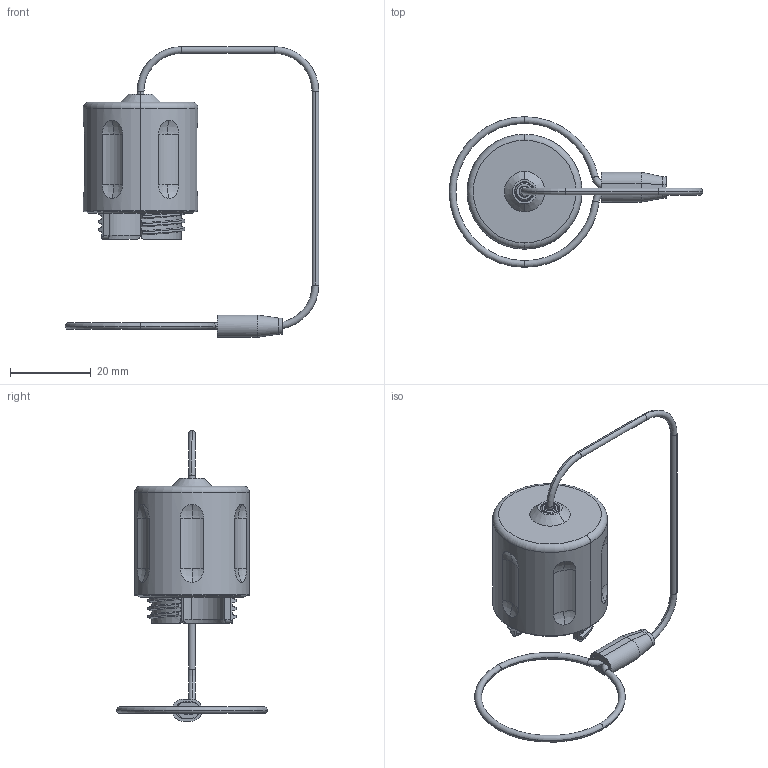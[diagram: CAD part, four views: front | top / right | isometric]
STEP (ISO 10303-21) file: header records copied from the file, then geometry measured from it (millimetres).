
FILE_DESCRIPTION (( 'STEP AP214' ), '1' );
FILE_NAME ('QMINI-DCHPX.STEP', '2025-05-22T23:35:29', ( '' ), ( '' ), 'SwSTEP 2.0', 'SolidWorks 2024', '' );
FILE_SCHEMA (( 'AUTOMOTIVE_DESIGN' ));
Length unit declared in the file: inch
Products named in the file (1): QMINI-DCHPX
Bounding box: 62.61 x 37.21 x 71.76 mm (x, y, z)
Volume: 16003.7 mm3; surface area: 8887.7 mm2
Topology: 5 solids, 5 shells, 284 faces, 751 edges, 471 vertices
Faces by surface type: cylinder 111, plane 52, cone 41, torus 28, bspline 27, sphere 25
Entity records: 13355 total; most frequent: CARTESIAN_POINT 6825, ORIENTED_EDGE 1500, DIRECTION 1210, EDGE_CURVE 750, AXIS2_PLACEMENT_3D 499, VERTEX_POINT 471, EDGE_LOOP 303, FACE_OUTER_BOUND 284
